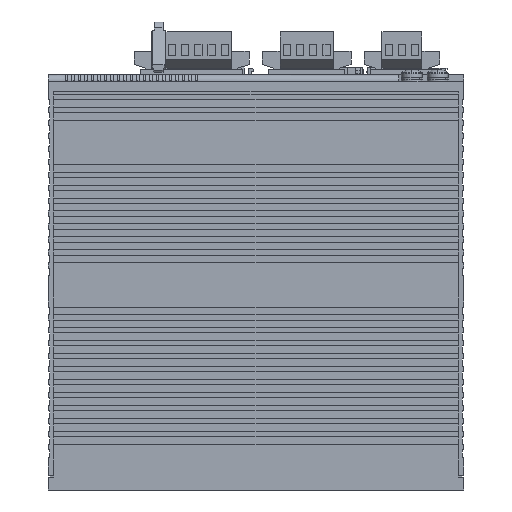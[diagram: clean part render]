
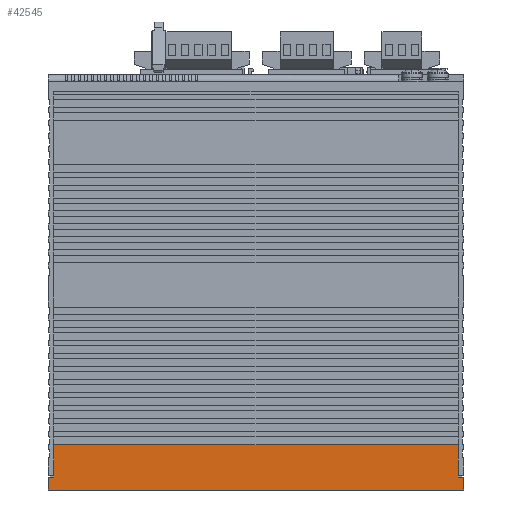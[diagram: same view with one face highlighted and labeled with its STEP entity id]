
A CAD part, left-side view. The second image highlights one B-rep face of the part: STEP entity #42545.
In plain terms, the highlighted planar face has unit normal (-1, 0, 0).
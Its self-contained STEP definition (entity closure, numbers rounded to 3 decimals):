
#1734 = EDGE_LOOP ( 'NONE', ( #60165, #17328, #58515, #124914, #108153, #47717, #226617, #125090, #42959, #42172 ) ) ;
#5594 = EDGE_CURVE ( 'NONE', #194788, #166684, #159315, .T. ) ;
#6031 = CARTESIAN_POINT ( 'NONE',  ( -50., -159.5, 5. ) ) ;
#8941 = VERTEX_POINT ( 'NONE', #139031 ) ;
#9927 = VERTEX_POINT ( 'NONE', #68259 ) ;
#16105 = EDGE_CURVE ( 'NONE', #117170, #175846, #133452, .T. ) ;
#17328 = ORIENTED_EDGE ( 'NONE', *, *, #5594, .F. ) ;
#21711 = CARTESIAN_POINT ( 'NONE',  ( -50., -160., 160. ) ) ;
#23480 = CARTESIAN_POINT ( 'NONE',  ( -50., 0., 0. ) ) ;
#29855 = CARTESIAN_POINT ( 'NONE',  ( -50., 0., 5. ) ) ;
#38015 = VECTOR ( 'NONE', #135178, 1000. ) ;
#40288 = EDGE_CURVE ( 'NONE', #45909, #8941, #148778, .T. ) ;
#40311 = LINE ( 'NONE', #23480, #45153 ) ;
#41009 = EDGE_CURVE ( 'NONE', #9927, #194788, #123922, .T. ) ;
#42172 = ORIENTED_EDGE ( 'NONE', *, *, #40288, .F. ) ;
#42545 = ADVANCED_FACE ( 'NONE', ( #190838 ), #137913, .F. ) ;
#42959 = ORIENTED_EDGE ( 'NONE', *, *, #170166, .F. ) ;
#45153 = VECTOR ( 'NONE', #148501, 1000. ) ;
#45404 = DIRECTION ( 'NONE',  ( 1., 0., 0. ) ) ;
#45909 = VERTEX_POINT ( 'NONE', #91542 ) ;
#46436 = CARTESIAN_POINT ( 'NONE',  ( -50., 0., 5. ) ) ;
#47717 = ORIENTED_EDGE ( 'NONE', *, *, #237817, .T. ) ;
#54780 = VECTOR ( 'NONE', #190994, 1000. ) ;
#58515 = ORIENTED_EDGE ( 'NONE', *, *, #41009, .F. ) ;
#60165 = ORIENTED_EDGE ( 'NONE', *, *, #136153, .F. ) ;
#64740 = LINE ( 'NONE', #29855, #54780 ) ;
#66137 = CARTESIAN_POINT ( 'NONE',  ( -50., -2., 17.5 ) ) ;
#68259 = CARTESIAN_POINT ( 'NONE',  ( -50., -2., 5.6 ) ) ;
#69153 = DIRECTION ( 'NONE',  ( 0., -1., 0. ) ) ;
#71003 = CARTESIAN_POINT ( 'NONE',  ( -50., -2., 160. ) ) ;
#74554 = EDGE_CURVE ( 'NONE', #158906, #183694, #64740, .T. ) ;
#76029 = VERTEX_POINT ( 'NONE', #91400 ) ;
#80252 = DIRECTION ( 'NONE',  ( 0., 1., 0. ) ) ;
#86496 = VECTOR ( 'NONE', #69153, 1000. ) ;
#91400 = CARTESIAN_POINT ( 'NONE',  ( -50., 0., 0. ) ) ;
#91542 = CARTESIAN_POINT ( 'NONE',  ( -50., -158., 5.6 ) ) ;
#97905 = LINE ( 'NONE', #99102, #174736 ) ;
#99102 = CARTESIAN_POINT ( 'NONE',  ( -50., -158., 160. ) ) ;
#108153 = ORIENTED_EDGE ( 'NONE', *, *, #74554, .F. ) ;
#117170 = VERTEX_POINT ( 'NONE', #231036 ) ;
#118332 = DIRECTION ( 'NONE',  ( 0., 0., -1. ) ) ;
#120459 = EDGE_CURVE ( 'NONE', #183694, #9927, #153766, .T. ) ;
#123922 = LINE ( 'NONE', #71003, #193928 ) ;
#124914 = ORIENTED_EDGE ( 'NONE', *, *, #120459, .F. ) ;
#125090 = ORIENTED_EDGE ( 'NONE', *, *, #16105, .F. ) ;
#131937 = CARTESIAN_POINT ( 'NONE',  ( -50., -158., 5. ) ) ;
#132336 = VECTOR ( 'NONE', #205231, 1000. ) ;
#132793 = CARTESIAN_POINT ( 'NONE',  ( -50., 0., 160. ) ) ;
#133452 = LINE ( 'NONE', #21711, #196756 ) ;
#135178 = DIRECTION ( 'NONE',  ( 0., 0., -1. ) ) ;
#135743 = CARTESIAN_POINT ( 'NONE',  ( -50., -2., 5. ) ) ;
#136153 = EDGE_CURVE ( 'NONE', #166684, #45909, #97905, .T. ) ;
#137913 = PLANE ( 'NONE',  #228932 ) ;
#139031 = CARTESIAN_POINT ( 'NONE',  ( -50., -158., 5. ) ) ;
#139842 = CARTESIAN_POINT ( 'NONE',  ( -50., -160., 0. ) ) ;
#148501 = DIRECTION ( 'NONE',  ( 0., -1., 0. ) ) ;
#148778 = LINE ( 'NONE', #131937, #132336 ) ;
#153766 = LINE ( 'NONE', #135743, #176310 ) ;
#155007 = DIRECTION ( 'NONE',  ( 0., -1., 0. ) ) ;
#157510 = CARTESIAN_POINT ( 'NONE',  ( -50., -2., 5. ) ) ;
#158906 = VERTEX_POINT ( 'NONE', #46436 ) ;
#159315 = LINE ( 'NONE', #216945, #86496 ) ;
#166684 = VERTEX_POINT ( 'NONE', #184154 ) ;
#170166 = EDGE_CURVE ( 'NONE', #8941, #117170, #230669, .T. ) ;
#174403 = VECTOR ( 'NONE', #155007, 1000. ) ;
#174736 = VECTOR ( 'NONE', #118332, 1000. ) ;
#175136 = CARTESIAN_POINT ( 'NONE',  ( -50., 0., 160. ) ) ;
#175846 = VERTEX_POINT ( 'NONE', #139842 ) ;
#176310 = VECTOR ( 'NONE', #209040, 1000. ) ;
#183694 = VERTEX_POINT ( 'NONE', #157510 ) ;
#184154 = CARTESIAN_POINT ( 'NONE',  ( -50., -158., 17.5 ) ) ;
#186895 = LINE ( 'NONE', #132793, #38015 ) ;
#190838 = FACE_OUTER_BOUND ( 'NONE', #1734, .T. ) ;
#190994 = DIRECTION ( 'NONE',  ( 0., -1., 0. ) ) ;
#193928 = VECTOR ( 'NONE', #214075, 1000. ) ;
#194788 = VERTEX_POINT ( 'NONE', #66137 ) ;
#196756 = VECTOR ( 'NONE', #222400, 1000. ) ;
#205231 = DIRECTION ( 'NONE',  ( 0., 0., -1. ) ) ;
#209040 = DIRECTION ( 'NONE',  ( 0., 0., 1. ) ) ;
#214075 = DIRECTION ( 'NONE',  ( 0., 0., 1. ) ) ;
#216945 = CARTESIAN_POINT ( 'NONE',  ( -50., -2., 17.5 ) ) ;
#218604 = EDGE_CURVE ( 'NONE', #76029, #175846, #40311, .T. ) ;
#222400 = DIRECTION ( 'NONE',  ( 0., 0., -1. ) ) ;
#226617 = ORIENTED_EDGE ( 'NONE', *, *, #218604, .T. ) ;
#228932 = AXIS2_PLACEMENT_3D ( 'NONE', #175136, #45404, #80252 ) ;
#230669 = LINE ( 'NONE', #6031, #174403 ) ;
#231036 = CARTESIAN_POINT ( 'NONE',  ( -50., -160., 5. ) ) ;
#237817 = EDGE_CURVE ( 'NONE', #158906, #76029, #186895, .T. ) ;
